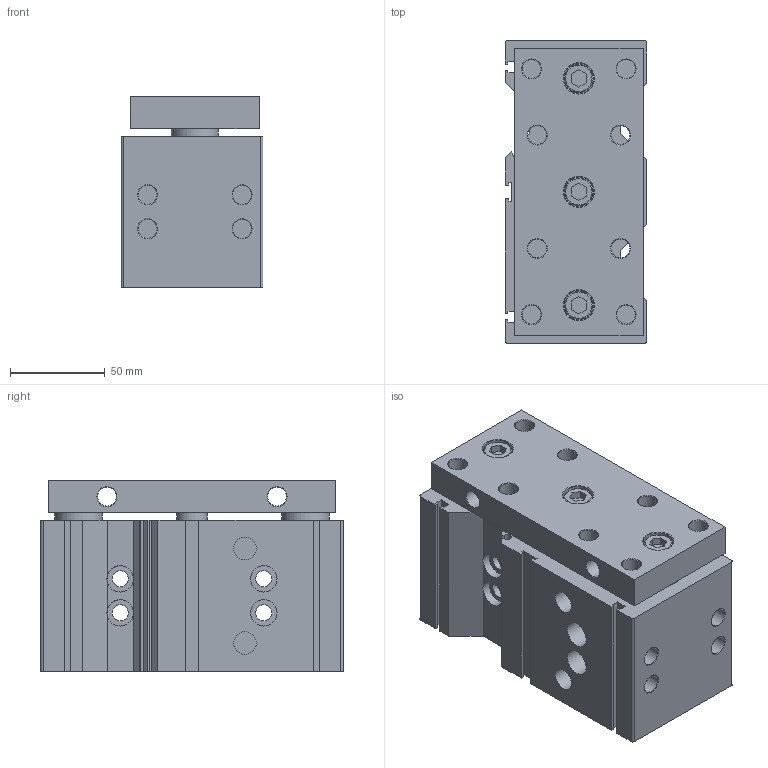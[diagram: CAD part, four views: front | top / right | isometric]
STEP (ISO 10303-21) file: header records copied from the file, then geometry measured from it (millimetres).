
FILE_DESCRIPTION((''),'2;1');
FILE_NAME('I:\3D電子目錄\氣缸\TB(U)\TB(U)63\TB(U)63\TB(U)63x30.stp','2007-08-06T09:28:58',('Administrator'),(''),'Autodesk Inventor 2008','Autodesk Inventor 2008','');
FILE_SCHEMA(('AUTOMOTIVE_DESIGN { 1 0 10303 214 1 1 1 1 }'));
Length unit declared in the file: millimetre
Products named in the file (1): TB(U)63X30
Bounding box: 75 x 160 x 101 mm (x, y, z)
Volume: 978294.9 mm3; surface area: 115858.4 mm2
Topology: 1 solids, 1 shells, 206 faces, 462 edges, 294 vertices
Faces by surface type: plane 106, cylinder 52, cone 37, bspline 8, torus 3
Full cylindrical faces by diameter (mm): 8.5 x4, 10 x22, 12 x2, 14 x4, 15 x3, 16 x4, 25 x4, 32 x2, 60 x1
Entity records: 5380 total; most frequent: CARTESIAN_POINT 949, DIRECTION 924, ORIENTED_EDGE 740, EDGE_CURVE 370, EDGE_LOOP 364, AXIS2_PLACEMENT_3D 355, VERTEX_POINT 292, VECTOR 214
